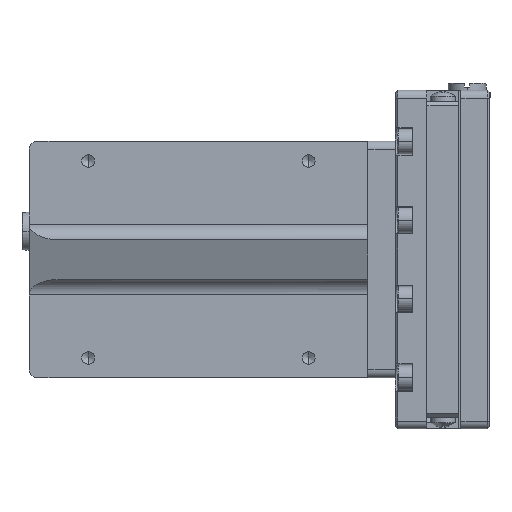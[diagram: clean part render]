
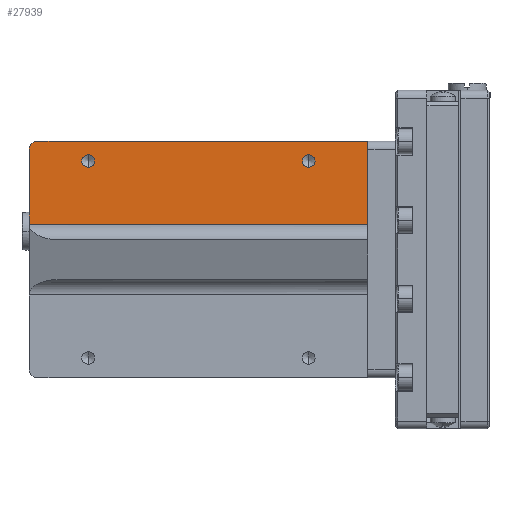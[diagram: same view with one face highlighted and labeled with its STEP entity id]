
A CAD part, left-side view. The second image highlights one B-rep face of the part: STEP entity #27939.
In plain terms, the highlighted planar face has unit normal (-1, 0, 0).
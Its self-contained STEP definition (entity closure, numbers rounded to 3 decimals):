
#252 = VECTOR ( 'NONE', #1696, 1000. ) ;
#1457 = ORIENTED_EDGE ( 'NONE', *, *, #29106, .T. ) ;
#1696 = DIRECTION ( 'NONE',  ( 0., 0., -1. ) ) ;
#2063 = VERTEX_POINT ( 'NONE', #43891 ) ;
#3105 = CIRCLE ( 'NONE', #53839, 0.8 ) ;
#3129 = VERTEX_POINT ( 'NONE', #29483 ) ;
#3414 = EDGE_CURVE ( 'NONE', #3129, #14517, #13673, .T. ) ;
#4710 = EDGE_CURVE ( 'NONE', #14152, #44003, #34939, .T. ) ;
#4843 = AXIS2_PLACEMENT_3D ( 'NONE', #53318, #29661, #12086 ) ;
#6486 = FACE_BOUND ( 'NONE', #36772, .T. ) ;
#7411 = CARTESIAN_POINT ( 'NONE',  ( 7.5, 27.503, 15. ) ) ;
#7801 = VERTEX_POINT ( 'NONE', #59344 ) ;
#8098 = ORIENTED_EDGE ( 'NONE', *, *, #46088, .T. ) ;
#8573 = EDGE_CURVE ( 'NONE', #65931, #7801, #3105, .T. ) ;
#10171 = LINE ( 'NONE', #48907, #12081 ) ;
#10207 = EDGE_CURVE ( 'NONE', #44003, #14152, #72521, .T. ) ;
#12081 = VECTOR ( 'NONE', #61320, 1000. ) ;
#12086 = DIRECTION ( 'NONE',  ( 0., 0., 1. ) ) ;
#13673 = CIRCLE ( 'NONE', #35392, 1. ) ;
#14080 = CARTESIAN_POINT ( 'NONE',  ( 7.5, 27.503, 4.5 ) ) ;
#14152 = VERTEX_POINT ( 'NONE', #74985 ) ;
#14517 = VERTEX_POINT ( 'NONE', #24357 ) ;
#15808 = CIRCLE ( 'NONE', #4843, 0.8 ) ;
#17656 = VERTEX_POINT ( 'NONE', #7411 ) ;
#21066 = EDGE_CURVE ( 'NONE', #17656, #2063, #57617, .T. ) ;
#21873 = DIRECTION ( 'NONE',  ( 1., 0., 0. ) ) ;
#22791 = ORIENTED_EDGE ( 'NONE', *, *, #52557, .T. ) ;
#24357 = CARTESIAN_POINT ( 'NONE',  ( 7.5, 69.503, 15. ) ) ;
#24369 = CARTESIAN_POINT ( 'NONE',  ( 7.5, 63.003, 13.3 ) ) ;
#24814 = CARTESIAN_POINT ( 'NONE',  ( 7.5, 70.503, 15. ) ) ;
#24825 = AXIS2_PLACEMENT_3D ( 'NONE', #69003, #63189, #68212 ) ;
#26194 = DIRECTION ( 'NONE',  ( 1., 0., 0. ) ) ;
#26212 = VECTOR ( 'NONE', #67737, 1000. ) ;
#26609 = ORIENTED_EDGE ( 'NONE', *, *, #52012, .F. ) ;
#27254 = FACE_OUTER_BOUND ( 'NONE', #38625, .T. ) ;
#27939 = ADVANCED_FACE ( 'NONE', ( #27254, #73388, #6486 ), #74265, .F. ) ;
#29106 = EDGE_CURVE ( 'NONE', #7801, #65931, #15808, .T. ) ;
#29483 = CARTESIAN_POINT ( 'NONE',  ( 7.5, 70.503, 14. ) ) ;
#29661 = DIRECTION ( 'NONE',  ( 1., 0., 0. ) ) ;
#31325 = CARTESIAN_POINT ( 'NONE',  ( 7.5, 35.003, 12.5 ) ) ;
#32366 = EDGE_LOOP ( 'NONE', ( #1457, #35616 ) ) ;
#34939 = CIRCLE ( 'NONE', #65766, 0.8 ) ;
#35392 = AXIS2_PLACEMENT_3D ( 'NONE', #41682, #40613, #41154 ) ;
#35616 = ORIENTED_EDGE ( 'NONE', *, *, #8573, .T. ) ;
#36772 = EDGE_LOOP ( 'NONE', ( #38102, #65116 ) ) ;
#36917 = ORIENTED_EDGE ( 'NONE', *, *, #3414, .F. ) ;
#37498 = LINE ( 'NONE', #14080, #26212 ) ;
#37701 = CARTESIAN_POINT ( 'NONE',  ( 7.5, 27.503, 15. ) ) ;
#37811 = AXIS2_PLACEMENT_3D ( 'NONE', #60030, #21873, #41540 ) ;
#38102 = ORIENTED_EDGE ( 'NONE', *, *, #10207, .T. ) ;
#38625 = EDGE_LOOP ( 'NONE', ( #36917, #8098, #26609, #44533, #22791 ) ) ;
#39848 = CARTESIAN_POINT ( 'NONE',  ( 7.5, 70.503, 4.5 ) ) ;
#40613 = DIRECTION ( 'NONE',  ( 1., 0., 0. ) ) ;
#41154 = DIRECTION ( 'NONE',  ( 0., 0., 1. ) ) ;
#41540 = DIRECTION ( 'NONE',  ( 0., 0., 1. ) ) ;
#41682 = CARTESIAN_POINT ( 'NONE',  ( 7.5, 69.503, 14. ) ) ;
#43150 = DIRECTION ( 'NONE',  ( 1., 0., 0. ) ) ;
#43548 = CARTESIAN_POINT ( 'NONE',  ( 7.5, 63.003, 12.5 ) ) ;
#43891 = CARTESIAN_POINT ( 'NONE',  ( 7.5, 27.503, 4.5 ) ) ;
#44003 = VERTEX_POINT ( 'NONE', #24369 ) ;
#44211 = VERTEX_POINT ( 'NONE', #39848 ) ;
#44533 = ORIENTED_EDGE ( 'NONE', *, *, #21066, .F. ) ;
#46088 = EDGE_CURVE ( 'NONE', #3129, #44211, #71436, .T. ) ;
#48907 = CARTESIAN_POINT ( 'NONE',  ( 7.5, 24.003, 15. ) ) ;
#49172 = DIRECTION ( 'NONE',  ( 0., 0., 1. ) ) ;
#49305 = DIRECTION ( 'NONE',  ( 0., 0., 1. ) ) ;
#52012 = EDGE_CURVE ( 'NONE', #2063, #44211, #37498, .T. ) ;
#52557 = EDGE_CURVE ( 'NONE', #17656, #14517, #10171, .T. ) ;
#53318 = CARTESIAN_POINT ( 'NONE',  ( 7.5, 35.003, 12.5 ) ) ;
#53839 = AXIS2_PLACEMENT_3D ( 'NONE', #31325, #43150, #49172 ) ;
#54305 = DIRECTION ( 'NONE',  ( 0., 0., -1. ) ) ;
#55364 = VECTOR ( 'NONE', #54305, 1000. ) ;
#57617 = LINE ( 'NONE', #37701, #252 ) ;
#59344 = CARTESIAN_POINT ( 'NONE',  ( 7.5, 35.003, 13.3 ) ) ;
#60030 = CARTESIAN_POINT ( 'NONE',  ( 7.5, 63.003, 12.5 ) ) ;
#61320 = DIRECTION ( 'NONE',  ( 0., 1., 0. ) ) ;
#62814 = CARTESIAN_POINT ( 'NONE',  ( 7.5, 35.003, 11.7 ) ) ;
#63189 = DIRECTION ( 'NONE',  ( 1., 0., 0. ) ) ;
#65116 = ORIENTED_EDGE ( 'NONE', *, *, #4710, .T. ) ;
#65766 = AXIS2_PLACEMENT_3D ( 'NONE', #43548, #26194, #49305 ) ;
#65931 = VERTEX_POINT ( 'NONE', #62814 ) ;
#67737 = DIRECTION ( 'NONE',  ( 0., 1., 0. ) ) ;
#68212 = DIRECTION ( 'NONE',  ( 0., 1., 0. ) ) ;
#69003 = CARTESIAN_POINT ( 'NONE',  ( 7.5, 27.503, 15. ) ) ;
#71436 = LINE ( 'NONE', #24814, #55364 ) ;
#72521 = CIRCLE ( 'NONE', #37811, 0.8 ) ;
#73388 = FACE_BOUND ( 'NONE', #32366, .T. ) ;
#74265 = PLANE ( 'NONE',  #24825 ) ;
#74985 = CARTESIAN_POINT ( 'NONE',  ( 7.5, 63.003, 11.7 ) ) ;
